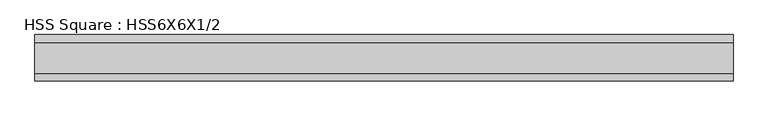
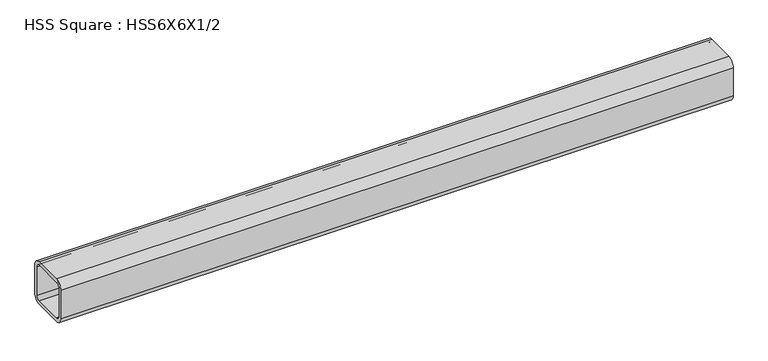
"""IFC4 building model written with IfcOpenShell, lengths in millimetres: beam geometry, HSS Square : HSS6X6X1/2."""

from ifc_helpers import new_model, si_unit, point, frame, frame_2d, origin, place, context, project, spatial, polyline, circle_curve, trimmed, segment, composite_curve, outline, extrude, source, transform, mapped, element, save


def hss_square_hss6x6x1_2_22740da5(model_context):
    return source(origin(), model_context, "Body", "SweptSolid", [
        extrude(outline(composite_curve([segment(polyline([(76.2, 50.8), (76.2, -50.8)]), True, "CONTINUOUS"), segment(trimmed(circle_curve(frame_2d((50.8, -50.8)), 25.4), [point((76.2, -50.8))], [point((50.8, -76.2))], False, "CARTESIAN"), True, "CONTINUOUS"), segment(polyline([(50.8, -76.2), (-50.8, -76.2)]), True, "CONTINUOUS"), segment(trimmed(circle_curve(frame_2d((-50.8, -50.8)), 25.4), [point((-50.8, -76.2))], [point((-76.2, -50.8))], False, "CARTESIAN"), True, "CONTINUOUS"), segment(polyline([(-76.2, -50.8), (-76.2, 50.8)]), True, "CONTINUOUS"), segment(trimmed(circle_curve(frame_2d((-50.8, 50.8)), 25.4), [point((-76.2, 50.8))], [point((-50.8, 76.2))], False, "CARTESIAN"), True, "CONTINUOUS"), segment(polyline([(-50.8, 76.2), (50.8, 76.2)]), True, "CONTINUOUS"), segment(trimmed(circle_curve(frame_2d((50.8, 50.8)), 25.4), [point((50.8, 76.2))], [point((76.2, 50.8))], False, "CARTESIAN"), True, "CONTINUOUS")], self_intersect=False), holes=[composite_curve([segment(trimmed(circle_curve(frame_2d((-50.8, 50.8)), 12.7), [point((-50.8, 63.5))], [point((-63.5, 50.8))], True, "CARTESIAN"), True, "CONTINUOUS"), segment(polyline([(-63.5, 50.8), (-63.5, -50.8)]), True, "CONTINUOUS"), segment(trimmed(circle_curve(frame_2d((-50.8, -50.8)), 12.7), [point((-63.5, -50.8))], [point((-50.8, -63.5))], True, "CARTESIAN"), True, "CONTINUOUS"), segment(polyline([(-50.8, -63.5), (50.8, -63.5)]), True, "CONTINUOUS"), segment(trimmed(circle_curve(frame_2d((50.8, -50.8)), 12.7), [point((50.8, -63.5))], [point((63.5, -50.8))], True, "CARTESIAN"), True, "CONTINUOUS"), segment(polyline([(63.5, -50.8), (63.5, 50.8)]), True, "CONTINUOUS"), segment(trimmed(circle_curve(frame_2d((50.8, 50.8)), 12.7), [point((63.5, 50.8))], [point((50.8, 63.5))], True, "CARTESIAN"), True, "CONTINUOUS"), segment(polyline([(50.8, 63.5), (-50.8, 63.5)]), True, "CONTINUOUS")], self_intersect=False)]), frame((-1143.1262407, 0.0, 0.0), z_axis=(1.0, 0.0, 0.0), x_axis=(0.0, 1.0, 0.0)), (0.0, 0.0, 1.0), 2286.2524814),
    ])


if __name__ == "__main__":
    model = new_model("IFC4")
    model_context = context("Model", 3, world=origin())
    ifc_project = project(units=[si_unit("LENGTHUNIT", "METRE", prefix="MILLI")], contexts=[model_context])
    site = spatial("IfcSite", under=ifc_project)
    building = spatial("IfcBuilding", under=site)
    placement = place(None, origin())
    hss_square_hss6x6x1_2_shape = hss_square_hss6x6x1_2_22740da5(model_context)
    element("IfcBeam", 1, ObjectType="HSS Square : HSS6X6X1/2", at=placement, inside=building, context=model_context, shape_type="MappedRepresentation", body=[
        mapped(hss_square_hss6x6x1_2_shape, transform((0.0, 0.0, 0.0), x_axis=(1.0, 0.0, 0.0), y_axis=(0.0, 1.0, 0.0), z_axis=(0.0, 0.0, 1.0))),
    ])
    save(model, "model.ifc")
